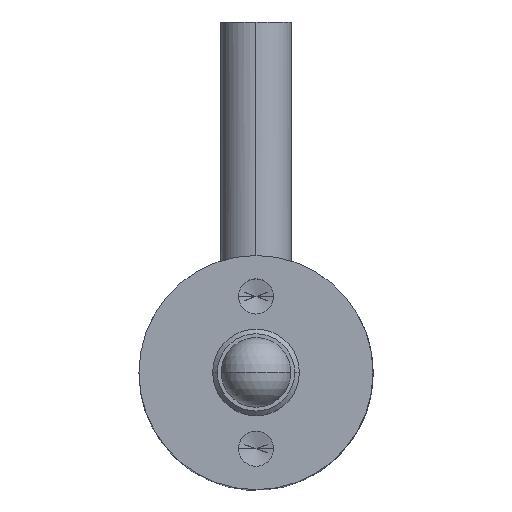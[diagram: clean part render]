
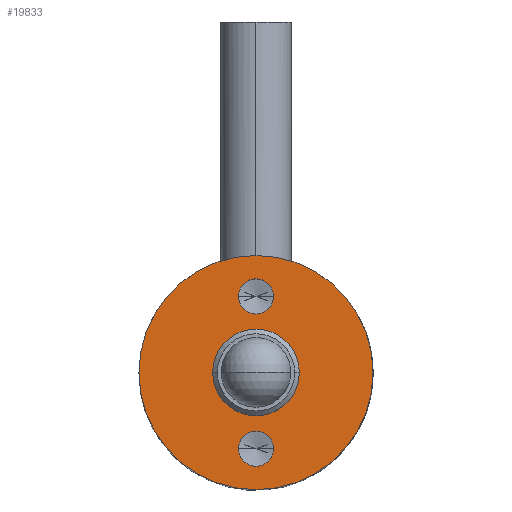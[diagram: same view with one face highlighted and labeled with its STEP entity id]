
A CAD part, top view. The second image highlights one B-rep face of the part: STEP entity #19833.
In plain terms, the highlighted planar face has unit normal (0, 0, 1).
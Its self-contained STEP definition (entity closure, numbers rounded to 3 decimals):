
#1155 = EDGE_CURVE ( 'NONE', #3296, #6096, #27479, .T. ) ;
#1570 = AXIS2_PLACEMENT_3D ( 'NONE', #21560, #3537, #33624 ) ;
#1577 = CIRCLE ( 'NONE', #1570, 1.85 ) ;
#1703 = VERTEX_POINT ( 'NONE', #3659 ) ;
#2415 = DIRECTION ( 'NONE',  ( 0., 0., 1. ) ) ;
#2555 = EDGE_LOOP ( 'NONE', ( #25449, #14522 ) ) ;
#2882 = EDGE_CURVE ( 'NONE', #32286, #1703, #1577, .T. ) ;
#3296 = VERTEX_POINT ( 'NONE', #17971 ) ;
#3448 = DIRECTION ( 'NONE',  ( 0., 0., 1. ) ) ;
#3537 = DIRECTION ( 'NONE',  ( 0., 0., 1. ) ) ;
#3659 = CARTESIAN_POINT ( 'NONE',  ( -1.85, 0., 19.5 ) ) ;
#3688 = EDGE_CURVE ( 'NONE', #11309, #20625, #14762, .T. ) ;
#4558 = DIRECTION ( 'NONE',  ( 1., 0., 0. ) ) ;
#5156 = CARTESIAN_POINT ( 'NONE',  ( 0., 0., 19.5 ) ) ;
#5474 = AXIS2_PLACEMENT_3D ( 'NONE', #5156, #35510, #29223 ) ;
#6096 = VERTEX_POINT ( 'NONE', #31392 ) ;
#6466 = DIRECTION ( 'NONE',  ( 1., 0., 0. ) ) ;
#6844 = VERTEX_POINT ( 'NONE', #13737 ) ;
#8432 = CARTESIAN_POINT ( 'NONE',  ( 0., 0., 19.5 ) ) ;
#8811 = CARTESIAN_POINT ( 'NONE',  ( 0., 0., 19.5 ) ) ;
#9205 = ORIENTED_EDGE ( 'NONE', *, *, #24669, .T. ) ;
#10078 = EDGE_CURVE ( 'NONE', #20625, #11309, #14191, .T. ) ;
#11309 = VERTEX_POINT ( 'NONE', #20332 ) ;
#11522 = EDGE_CURVE ( 'NONE', #6844, #37215, #12295, .T. ) ;
#12091 = PLANE ( 'NONE',  #13532 ) ;
#12295 = CIRCLE ( 'NONE', #14994, 5. ) ;
#12381 = EDGE_LOOP ( 'NONE', ( #31025, #36267 ) ) ;
#13367 = DIRECTION ( 'NONE',  ( 0., 0., 1. ) ) ;
#13532 = AXIS2_PLACEMENT_3D ( 'NONE', #8811, #29953, #18134 ) ;
#13588 = AXIS2_PLACEMENT_3D ( 'NONE', #8432, #14745, #17505 ) ;
#13737 = CARTESIAN_POINT ( 'NONE',  ( 5., 0., 19.5 ) ) ;
#13861 = CARTESIAN_POINT ( 'NONE',  ( 0., -3.25, 19.5 ) ) ;
#14191 = CIRCLE ( 'NONE', #29098, 0.75 ) ;
#14385 = CARTESIAN_POINT ( 'NONE',  ( 1.85, 0., 19.5 ) ) ;
#14522 = ORIENTED_EDGE ( 'NONE', *, *, #3688, .F. ) ;
#14745 = DIRECTION ( 'NONE',  ( 0., 0., 1. ) ) ;
#14762 = CIRCLE ( 'NONE', #26819, 0.75 ) ;
#14994 = AXIS2_PLACEMENT_3D ( 'NONE', #21473, #3448, #6466 ) ;
#15888 = CIRCLE ( 'NONE', #13588, 5. ) ;
#16422 = EDGE_LOOP ( 'NONE', ( #9205, #28433 ) ) ;
#16646 = CARTESIAN_POINT ( 'NONE',  ( 0., -3.25, 19.5 ) ) ;
#17438 = FACE_BOUND ( 'NONE', #2555, .T. ) ;
#17505 = DIRECTION ( 'NONE',  ( 1., 0., 0. ) ) ;
#17971 = CARTESIAN_POINT ( 'NONE',  ( 0.75, 3.25, 19.5 ) ) ;
#18034 = EDGE_CURVE ( 'NONE', #1703, #32286, #37186, .T. ) ;
#18134 = DIRECTION ( 'NONE',  ( 1., 0., 0. ) ) ;
#19119 = AXIS2_PLACEMENT_3D ( 'NONE', #20442, #2415, #26226 ) ;
#19772 = FACE_BOUND ( 'NONE', #28126, .T. ) ;
#19833 = ADVANCED_FACE ( 'NONE', ( #17438, #26408, #19772, #21657 ), #12091, .T. ) ;
#20068 = ORIENTED_EDGE ( 'NONE', *, *, #2882, .F. ) ;
#20332 = CARTESIAN_POINT ( 'NONE',  ( -0.75, -3.25, 19.5 ) ) ;
#20442 = CARTESIAN_POINT ( 'NONE',  ( 0., 3.25, 19.5 ) ) ;
#20625 = VERTEX_POINT ( 'NONE', #27484 ) ;
#21473 = CARTESIAN_POINT ( 'NONE',  ( 0., 0., 19.5 ) ) ;
#21560 = CARTESIAN_POINT ( 'NONE',  ( 0., 0., 19.5 ) ) ;
#21657 = FACE_OUTER_BOUND ( 'NONE', #16422, .T. ) ;
#23741 = DIRECTION ( 'NONE',  ( 0., 0., 1. ) ) ;
#23753 = EDGE_CURVE ( 'NONE', #6096, #3296, #25297, .T. ) ;
#24669 = EDGE_CURVE ( 'NONE', #37215, #6844, #15888, .T. ) ;
#25297 = CIRCLE ( 'NONE', #19119, 0.75 ) ;
#25315 = CARTESIAN_POINT ( 'NONE',  ( -5., 0., 19.5 ) ) ;
#25449 = ORIENTED_EDGE ( 'NONE', *, *, #10078, .F. ) ;
#26226 = DIRECTION ( 'NONE',  ( 1., 0., 0. ) ) ;
#26408 = FACE_BOUND ( 'NONE', #12381, .T. ) ;
#26819 = AXIS2_PLACEMENT_3D ( 'NONE', #16646, #13367, #4558 ) ;
#27479 = CIRCLE ( 'NONE', #36575, 0.75 ) ;
#27484 = CARTESIAN_POINT ( 'NONE',  ( 0.75, -3.25, 19.5 ) ) ;
#28126 = EDGE_LOOP ( 'NONE', ( #36825, #20068 ) ) ;
#28433 = ORIENTED_EDGE ( 'NONE', *, *, #11522, .T. ) ;
#29098 = AXIS2_PLACEMENT_3D ( 'NONE', #13861, #34731, #34866 ) ;
#29223 = DIRECTION ( 'NONE',  ( 1., 0., 0. ) ) ;
#29953 = DIRECTION ( 'NONE',  ( 0., 0., 1. ) ) ;
#31025 = ORIENTED_EDGE ( 'NONE', *, *, #1155, .F. ) ;
#31392 = CARTESIAN_POINT ( 'NONE',  ( -0.75, 3.25, 19.5 ) ) ;
#32286 = VERTEX_POINT ( 'NONE', #14385 ) ;
#32532 = DIRECTION ( 'NONE',  ( 1., 0., 0. ) ) ;
#32656 = CARTESIAN_POINT ( 'NONE',  ( 0., 3.25, 19.5 ) ) ;
#33624 = DIRECTION ( 'NONE',  ( 1., 0., 0. ) ) ;
#34731 = DIRECTION ( 'NONE',  ( 0., 0., 1. ) ) ;
#34866 = DIRECTION ( 'NONE',  ( 1., 0., 0. ) ) ;
#35510 = DIRECTION ( 'NONE',  ( 0., 0., 1. ) ) ;
#36267 = ORIENTED_EDGE ( 'NONE', *, *, #23753, .F. ) ;
#36575 = AXIS2_PLACEMENT_3D ( 'NONE', #32656, #23741, #32532 ) ;
#36825 = ORIENTED_EDGE ( 'NONE', *, *, #18034, .F. ) ;
#37186 = CIRCLE ( 'NONE', #5474, 1.85 ) ;
#37215 = VERTEX_POINT ( 'NONE', #25315 ) ;
